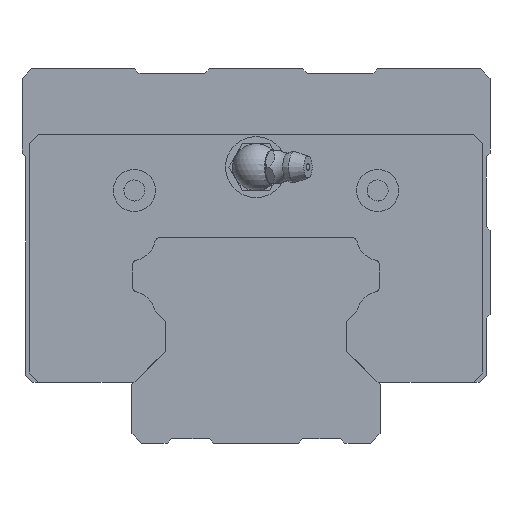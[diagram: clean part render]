
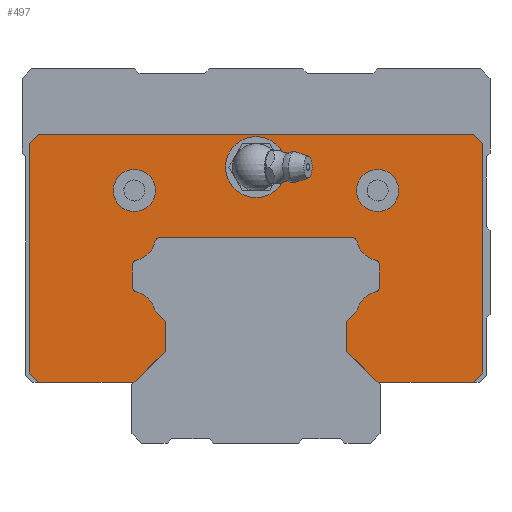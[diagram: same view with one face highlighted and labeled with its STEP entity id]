
A CAD part, front view. The second image highlights one B-rep face of the part: STEP entity #497.
In plain terms, the highlighted planar face has unit normal (0, -1, 0).
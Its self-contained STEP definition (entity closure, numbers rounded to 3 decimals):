
#228=FACE_BOUND('',#967,.T.);
#229=FACE_BOUND('',#969,.T.);
#230=FACE_BOUND('',#970,.T.);
#318=CIRCLE('',#3233,5.15);
#320=CIRCLE('',#3236,1.);
#322=CIRCLE('',#3240,1.);
#324=CIRCLE('',#3243,5.15);
#326=CIRCLE('',#3246,1.);
#328=CIRCLE('',#3250,1.);
#330=CIRCLE('',#3253,5.15);
#332=CIRCLE('',#3256,1.);
#334=CIRCLE('',#3260,1.);
#336=CIRCLE('',#3263,5.15);
#341=CIRCLE('',#3297,6.5);
#342=CIRCLE('',#3298,4.5);
#343=CIRCLE('',#3299,4.5);
#497=ADVANCED_FACE('',(#228,#772,#229,#230),#625,.F.);
#625=PLANE('',#3300);
#772=FACE_OUTER_BOUND('',#968,.T.);
#967=EDGE_LOOP('',(#1681));
#968=EDGE_LOOP('',(#1682,#1683,#1684,#1685,#1686,#1687,#1688,#1689,#1690,
#1691,#1692,#1693,#1694,#1695,#1696,#1697,#1698,#1699,#1700,#1701,#1702,
#1703,#1704,#1705,#1706,#1707,#1708,#1709));
#969=EDGE_LOOP('',(#1710));
#970=EDGE_LOOP('',(#1711));
#1681=ORIENTED_EDGE('',*,*,#2476,.F.);
#1682=ORIENTED_EDGE('',*,*,#2477,.F.);
#1683=ORIENTED_EDGE('',*,*,#2478,.F.);
#1684=ORIENTED_EDGE('',*,*,#2479,.F.);
#1685=ORIENTED_EDGE('',*,*,#2480,.F.);
#1686=ORIENTED_EDGE('',*,*,#2481,.F.);
#1687=ORIENTED_EDGE('',*,*,#2394,.F.);
#1688=ORIENTED_EDGE('',*,*,#2398,.F.);
#1689=ORIENTED_EDGE('',*,*,#2401,.F.);
#1690=ORIENTED_EDGE('',*,*,#2404,.F.);
#1691=ORIENTED_EDGE('',*,*,#2407,.F.);
#1692=ORIENTED_EDGE('',*,*,#2410,.F.);
#1693=ORIENTED_EDGE('',*,*,#2413,.F.);
#1694=ORIENTED_EDGE('',*,*,#2416,.F.);
#1695=ORIENTED_EDGE('',*,*,#2419,.F.);
#1696=ORIENTED_EDGE('',*,*,#2422,.F.);
#1697=ORIENTED_EDGE('',*,*,#2425,.F.);
#1698=ORIENTED_EDGE('',*,*,#2428,.F.);
#1699=ORIENTED_EDGE('',*,*,#2431,.F.);
#1700=ORIENTED_EDGE('',*,*,#2434,.F.);
#1701=ORIENTED_EDGE('',*,*,#2437,.F.);
#1702=ORIENTED_EDGE('',*,*,#2440,.F.);
#1703=ORIENTED_EDGE('',*,*,#2443,.F.);
#1704=ORIENTED_EDGE('',*,*,#2446,.F.);
#1705=ORIENTED_EDGE('',*,*,#2449,.F.);
#1706=ORIENTED_EDGE('',*,*,#2452,.F.);
#1707=ORIENTED_EDGE('',*,*,#2457,.F.);
#1708=ORIENTED_EDGE('',*,*,#2482,.F.);
#1709=ORIENTED_EDGE('',*,*,#2483,.F.);
#1710=ORIENTED_EDGE('',*,*,#2484,.F.);
#1711=ORIENTED_EDGE('',*,*,#2485,.F.);
#2039=VERTEX_POINT('',#4943);
#2040=VERTEX_POINT('',#4945);
#2042=VERTEX_POINT('',#4951);
#2044=VERTEX_POINT('',#4957);
#2046=VERTEX_POINT('',#4963);
#2048=VERTEX_POINT('',#4969);
#2050=VERTEX_POINT('',#4975);
#2052=VERTEX_POINT('',#4981);
#2054=VERTEX_POINT('',#4987);
#2056=VERTEX_POINT('',#4993);
#2058=VERTEX_POINT('',#4999);
#2060=VERTEX_POINT('',#5005);
#2062=VERTEX_POINT('',#5011);
#2064=VERTEX_POINT('',#5017);
#2066=VERTEX_POINT('',#5023);
#2068=VERTEX_POINT('',#5029);
#2070=VERTEX_POINT('',#5035);
#2072=VERTEX_POINT('',#5041);
#2074=VERTEX_POINT('',#5047);
#2076=VERTEX_POINT('',#5053);
#2078=VERTEX_POINT('',#5059);
#2080=VERTEX_POINT('',#5067);
#2085=VERTEX_POINT('',#5117);
#2086=VERTEX_POINT('',#5119);
#2087=VERTEX_POINT('',#5120);
#2088=VERTEX_POINT('',#5122);
#2089=VERTEX_POINT('',#5124);
#2090=VERTEX_POINT('',#5126);
#2091=VERTEX_POINT('',#5129);
#2092=VERTEX_POINT('',#5132);
#2093=VERTEX_POINT('',#5134);
#2394=EDGE_CURVE('',#2039,#2040,#2715,.T.);
#2398=EDGE_CURVE('',#2042,#2039,#2719,.T.);
#2401=EDGE_CURVE('',#2044,#2042,#2722,.T.);
#2404=EDGE_CURVE('',#2046,#2044,#2725,.T.);
#2407=EDGE_CURVE('',#2048,#2046,#318,.T.);
#2410=EDGE_CURVE('',#2050,#2048,#320,.T.);
#2413=EDGE_CURVE('',#2052,#2050,#2730,.T.);
#2416=EDGE_CURVE('',#2054,#2052,#322,.T.);
#2419=EDGE_CURVE('',#2056,#2054,#324,.T.);
#2422=EDGE_CURVE('',#2058,#2056,#326,.T.);
#2425=EDGE_CURVE('',#2060,#2058,#2736,.T.);
#2428=EDGE_CURVE('',#2062,#2060,#328,.T.);
#2431=EDGE_CURVE('',#2064,#2062,#330,.T.);
#2434=EDGE_CURVE('',#2066,#2064,#332,.T.);
#2437=EDGE_CURVE('',#2068,#2066,#2742,.T.);
#2440=EDGE_CURVE('',#2070,#2068,#334,.T.);
#2443=EDGE_CURVE('',#2072,#2070,#336,.T.);
#2446=EDGE_CURVE('',#2074,#2072,#2747,.T.);
#2449=EDGE_CURVE('',#2076,#2074,#2750,.T.);
#2452=EDGE_CURVE('',#2078,#2076,#2753,.T.);
#2457=EDGE_CURVE('',#2080,#2078,#2758,.T.);
#2476=EDGE_CURVE('',#2085,#2085,#341,.T.);
#2477=EDGE_CURVE('',#2086,#2087,#2773,.T.);
#2478=EDGE_CURVE('',#2088,#2086,#2774,.T.);
#2479=EDGE_CURVE('',#2089,#2088,#2775,.T.);
#2480=EDGE_CURVE('',#2090,#2089,#2776,.T.);
#2481=EDGE_CURVE('',#2040,#2090,#2777,.T.);
#2482=EDGE_CURVE('',#2091,#2080,#2778,.T.);
#2483=EDGE_CURVE('',#2087,#2091,#2779,.T.);
#2484=EDGE_CURVE('',#2092,#2092,#342,.T.);
#2485=EDGE_CURVE('',#2093,#2093,#343,.T.);
#2715=LINE('',#4944,#2992);
#2719=LINE('',#4952,#2996);
#2722=LINE('',#4958,#2999);
#2725=LINE('',#4964,#3002);
#2730=LINE('',#4982,#3007);
#2736=LINE('',#5006,#3013);
#2742=LINE('',#5030,#3019);
#2747=LINE('',#5048,#3024);
#2750=LINE('',#5054,#3027);
#2753=LINE('',#5060,#3030);
#2758=LINE('',#5068,#3035);
#2773=LINE('',#5118,#3050);
#2774=LINE('',#5121,#3051);
#2775=LINE('',#5123,#3052);
#2776=LINE('',#5125,#3053);
#2777=LINE('',#5127,#3054);
#2778=LINE('',#5128,#3055);
#2779=LINE('',#5130,#3056);
#2992=VECTOR('',#3850,1.);
#2996=VECTOR('',#3856,1.);
#2999=VECTOR('',#3861,1.);
#3002=VECTOR('',#3866,1.);
#3007=VECTOR('',#3885,1.);
#3013=VECTOR('',#3911,1.);
#3019=VECTOR('',#3937,1.);
#3024=VECTOR('',#3956,1.);
#3027=VECTOR('',#3961,1.);
#3030=VECTOR('',#3966,1.);
#3035=VECTOR('',#3973,1.);
#3050=VECTOR('',#4048,1.);
#3051=VECTOR('',#4049,1.);
#3052=VECTOR('',#4050,1.);
#3053=VECTOR('',#4051,1.);
#3054=VECTOR('',#4052,1.);
#3055=VECTOR('',#4053,1.);
#3056=VECTOR('',#4054,1.);
#3233=AXIS2_PLACEMENT_3D('',#4970,#3872,#3873);
#3236=AXIS2_PLACEMENT_3D('',#4976,#3879,#3880);
#3240=AXIS2_PLACEMENT_3D('',#4988,#3891,#3892);
#3243=AXIS2_PLACEMENT_3D('',#4994,#3898,#3899);
#3246=AXIS2_PLACEMENT_3D('',#5000,#3905,#3906);
#3250=AXIS2_PLACEMENT_3D('',#5012,#3917,#3918);
#3253=AXIS2_PLACEMENT_3D('',#5018,#3924,#3925);
#3256=AXIS2_PLACEMENT_3D('',#5024,#3931,#3932);
#3260=AXIS2_PLACEMENT_3D('',#5036,#3943,#3944);
#3263=AXIS2_PLACEMENT_3D('',#5042,#3950,#3951);
#3297=AXIS2_PLACEMENT_3D('',#5116,#4046,#4047);
#3298=AXIS2_PLACEMENT_3D('',#5131,#4055,#4056);
#3299=AXIS2_PLACEMENT_3D('',#5133,#4057,#4058);
#3300=AXIS2_PLACEMENT_3D('',#5135,#4059,#4060);
#3850=DIRECTION('',(-1.,0.,0.));
#3856=DIRECTION('',(-0.707,0.,-0.707));
#3861=DIRECTION('',(0.,0.,-1.));
#3866=DIRECTION('',(0.707,0.,-0.707));
#3872=DIRECTION('',(0.,1.,0.));
#3873=DIRECTION('',(1.,0.,0.));
#3879=DIRECTION('',(0.,-1.,0.));
#3880=DIRECTION('',(1.,0.,0.));
#3885=DIRECTION('',(0.,0.,-1.));
#3891=DIRECTION('',(0.,-1.,0.));
#3892=DIRECTION('',(1.,0.,0.));
#3898=DIRECTION('',(0.,1.,0.));
#3899=DIRECTION('',(1.,0.,0.));
#3905=DIRECTION('',(0.,-1.,0.));
#3906=DIRECTION('',(1.,0.,0.));
#3911=DIRECTION('',(-1.,0.,0.));
#3917=DIRECTION('',(0.,-1.,0.));
#3918=DIRECTION('',(-1.,0.,0.));
#3924=DIRECTION('',(0.,1.,0.));
#3925=DIRECTION('',(-1.,0.,0.));
#3931=DIRECTION('',(0.,-1.,0.));
#3932=DIRECTION('',(-1.,0.,0.));
#3937=DIRECTION('',(0.,0.,1.));
#3943=DIRECTION('',(0.,-1.,0.));
#3944=DIRECTION('',(-1.,0.,0.));
#3950=DIRECTION('',(0.,1.,0.));
#3951=DIRECTION('',(-1.,0.,0.));
#3956=DIRECTION('',(0.707,0.,0.707));
#3961=DIRECTION('',(0.,0.,1.));
#3966=DIRECTION('',(-0.707,0.,0.707));
#3973=DIRECTION('',(-1.,0.,0.));
#4046=DIRECTION('',(0.,-1.,0.));
#4047=DIRECTION('',(1.,0.,0.));
#4048=DIRECTION('',(0.707,0.,-0.707));
#4049=DIRECTION('',(1.,0.,0.));
#4050=DIRECTION('',(0.707,0.,0.707));
#4051=DIRECTION('',(0.,0.,1.));
#4052=DIRECTION('',(-0.707,0.,0.707));
#4053=DIRECTION('',(-0.707,0.,-0.707));
#4054=DIRECTION('',(0.,0.,-1.));
#4055=DIRECTION('',(0.,-1.,0.));
#4056=DIRECTION('',(1.,0.,0.));
#4057=DIRECTION('',(0.,-1.,0.));
#4058=DIRECTION('',(1.,0.,0.));
#4059=DIRECTION('',(0.,1.,0.));
#4060=DIRECTION('',(0.,0.,1.));
#4943=CARTESIAN_POINT('',(-26.,110.25,13.));
#4944=CARTESIAN_POINT('',(-26.,110.25,13.));
#4945=CARTESIAN_POINT('',(-46.5,110.25,13.));
#4951=CARTESIAN_POINT('',(-19.4,110.25,19.6));
#4952=CARTESIAN_POINT('',(-19.4,110.25,19.6));
#4957=CARTESIAN_POINT('',(-19.4,110.25,26.041));
#4958=CARTESIAN_POINT('',(-19.4,110.25,26.041));
#4963=CARTESIAN_POINT('',(-21.573,110.25,28.214));
#4964=CARTESIAN_POINT('',(-21.573,110.25,28.214));
#4969=CARTESIAN_POINT('',(-25.601,110.25,32.31));
#4970=CARTESIAN_POINT('',(-26.635,110.25,27.265));
#4975=CARTESIAN_POINT('',(-26.4,110.25,33.29));
#4976=CARTESIAN_POINT('',(-25.4,110.25,33.29));
#4981=CARTESIAN_POINT('',(-26.4,110.25,38.11));
#4982=CARTESIAN_POINT('',(-26.4,110.25,38.11));
#4987=CARTESIAN_POINT('',(-25.601,110.25,39.09));
#4988=CARTESIAN_POINT('',(-25.4,110.25,38.11));
#4993=CARTESIAN_POINT('',(-21.59,110.25,43.101));
#4994=CARTESIAN_POINT('',(-26.635,110.25,44.135));
#4999=CARTESIAN_POINT('',(-20.61,110.25,43.9));
#5000=CARTESIAN_POINT('',(-20.61,110.25,42.9));
#5005=CARTESIAN_POINT('',(20.61,110.25,43.9));
#5006=CARTESIAN_POINT('',(20.61,110.25,43.9));
#5011=CARTESIAN_POINT('',(21.59,110.25,43.101));
#5012=CARTESIAN_POINT('',(20.61,110.25,42.9));
#5017=CARTESIAN_POINT('',(25.601,110.25,39.09));
#5018=CARTESIAN_POINT('',(26.635,110.25,44.135));
#5023=CARTESIAN_POINT('',(26.4,110.25,38.11));
#5024=CARTESIAN_POINT('',(25.4,110.25,38.11));
#5029=CARTESIAN_POINT('',(26.4,110.25,33.29));
#5030=CARTESIAN_POINT('',(26.4,110.25,33.29));
#5035=CARTESIAN_POINT('',(25.601,110.25,32.31));
#5036=CARTESIAN_POINT('',(25.4,110.25,33.29));
#5041=CARTESIAN_POINT('',(21.573,110.25,28.214));
#5042=CARTESIAN_POINT('',(26.635,110.25,27.265));
#5047=CARTESIAN_POINT('',(19.4,110.25,26.041));
#5048=CARTESIAN_POINT('',(19.4,110.25,26.041));
#5053=CARTESIAN_POINT('',(19.4,110.25,19.6));
#5054=CARTESIAN_POINT('',(19.4,110.25,19.6));
#5059=CARTESIAN_POINT('',(26.,110.25,13.));
#5060=CARTESIAN_POINT('',(26.,110.25,13.));
#5067=CARTESIAN_POINT('',(46.5,110.25,13.));
#5068=CARTESIAN_POINT('',(46.5,110.25,13.));
#5116=CARTESIAN_POINT('',(0.,110.25,58.997));
#5117=CARTESIAN_POINT('',(6.5,110.25,58.997));
#5118=CARTESIAN_POINT('',(46.5,110.25,66.));
#5119=CARTESIAN_POINT('',(46.5,110.25,66.));
#5120=CARTESIAN_POINT('',(48.5,110.25,64.));
#5121=CARTESIAN_POINT('',(-46.5,110.25,66.));
#5122=CARTESIAN_POINT('',(-46.5,110.25,66.));
#5123=CARTESIAN_POINT('',(-48.5,110.25,64.));
#5124=CARTESIAN_POINT('',(-48.5,110.25,64.));
#5125=CARTESIAN_POINT('',(-48.5,110.25,15.));
#5126=CARTESIAN_POINT('',(-48.5,110.25,15.));
#5127=CARTESIAN_POINT('',(-46.5,110.25,13.));
#5128=CARTESIAN_POINT('',(48.5,110.25,15.));
#5129=CARTESIAN_POINT('',(48.5,110.25,15.));
#5130=CARTESIAN_POINT('',(48.5,110.25,64.));
#5131=CARTESIAN_POINT('',(-26.,110.25,54.));
#5132=CARTESIAN_POINT('',(-21.5,110.25,54.));
#5133=CARTESIAN_POINT('',(26.,110.25,54.));
#5134=CARTESIAN_POINT('',(30.5,110.25,54.));
#5135=CARTESIAN_POINT('',(26.635,110.25,27.265));
